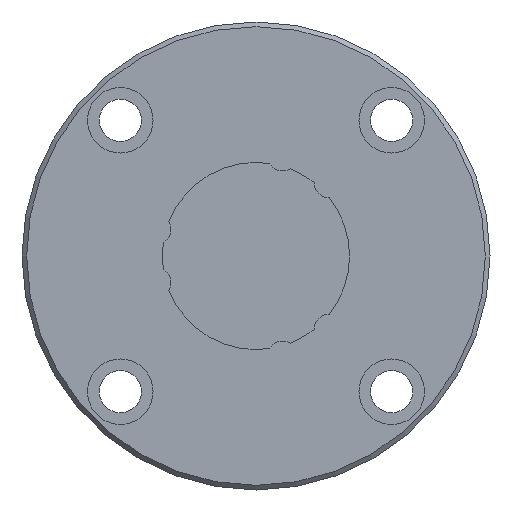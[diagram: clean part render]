
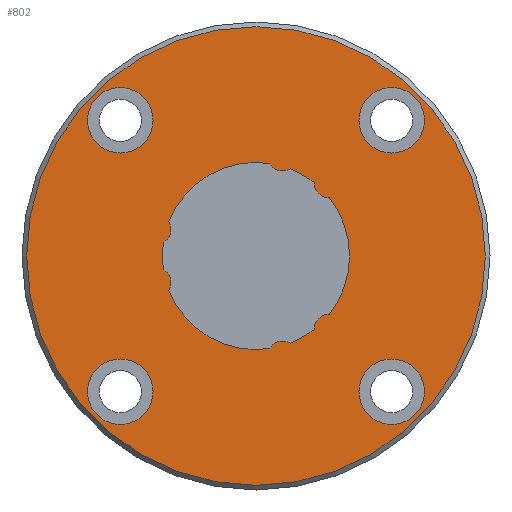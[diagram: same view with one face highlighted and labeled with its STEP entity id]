
A CAD part, left-side view. The second image highlights one B-rep face of the part: STEP entity #802.
In plain terms, the highlighted planar face has unit normal (-1, 0, 0).
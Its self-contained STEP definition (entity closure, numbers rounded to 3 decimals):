
#43=PLANE('',#905);
#174=ORIENTED_EDGE('',*,*,#346,.F.);
#175=ORIENTED_EDGE('',*,*,#347,.F.);
#176=ORIENTED_EDGE('',*,*,#348,.F.);
#177=ORIENTED_EDGE('',*,*,#349,.F.);
#178=ORIENTED_EDGE('',*,*,#350,.F.);
#179=ORIENTED_EDGE('',*,*,#351,.T.);
#180=ORIENTED_EDGE('',*,*,#352,.F.);
#181=ORIENTED_EDGE('',*,*,#353,.T.);
#182=ORIENTED_EDGE('',*,*,#354,.F.);
#183=ORIENTED_EDGE('',*,*,#355,.T.);
#184=ORIENTED_EDGE('',*,*,#356,.F.);
#185=ORIENTED_EDGE('',*,*,#357,.T.);
#186=ORIENTED_EDGE('',*,*,#358,.F.);
#187=ORIENTED_EDGE('',*,*,#359,.T.);
#188=ORIENTED_EDGE('',*,*,#360,.F.);
#189=ORIENTED_EDGE('',*,*,#361,.T.);
#190=ORIENTED_EDGE('',*,*,#362,.F.);
#346=EDGE_CURVE('',#438,#438,#514,.T.);
#347=EDGE_CURVE('',#439,#439,#515,.F.);
#348=EDGE_CURVE('',#440,#440,#516,.F.);
#349=EDGE_CURVE('',#441,#441,#517,.F.);
#350=EDGE_CURVE('',#442,#442,#518,.F.);
#351=EDGE_CURVE('',#443,#444,#519,.T.);
#352=EDGE_CURVE('',#445,#444,#520,.T.);
#353=EDGE_CURVE('',#445,#446,#521,.T.);
#354=EDGE_CURVE('',#447,#446,#522,.T.);
#355=EDGE_CURVE('',#447,#448,#523,.T.);
#356=EDGE_CURVE('',#449,#448,#524,.T.);
#357=EDGE_CURVE('',#449,#450,#525,.T.);
#358=EDGE_CURVE('',#451,#450,#526,.T.);
#359=EDGE_CURVE('',#451,#452,#527,.T.);
#360=EDGE_CURVE('',#453,#452,#528,.T.);
#361=EDGE_CURVE('',#453,#454,#529,.T.);
#362=EDGE_CURVE('',#443,#454,#530,.T.);
#438=VERTEX_POINT('',#1414);
#439=VERTEX_POINT('',#1416);
#440=VERTEX_POINT('',#1418);
#441=VERTEX_POINT('',#1420);
#442=VERTEX_POINT('',#1422);
#443=VERTEX_POINT('',#1424);
#444=VERTEX_POINT('',#1425);
#445=VERTEX_POINT('',#1427);
#446=VERTEX_POINT('',#1429);
#447=VERTEX_POINT('',#1431);
#448=VERTEX_POINT('',#1433);
#449=VERTEX_POINT('',#1435);
#450=VERTEX_POINT('',#1437);
#451=VERTEX_POINT('',#1439);
#452=VERTEX_POINT('',#1441);
#453=VERTEX_POINT('',#1443);
#454=VERTEX_POINT('',#1445);
#514=CIRCLE('',#906,49.);
#515=CIRCLE('',#907,7.);
#516=CIRCLE('',#908,7.);
#517=CIRCLE('',#909,7.);
#518=CIRCLE('',#910,7.);
#519=CIRCLE('',#911,20.);
#520=CIRCLE('',#912,3.175);
#521=CIRCLE('',#913,20.);
#522=CIRCLE('',#914,3.175);
#523=CIRCLE('',#915,20.);
#524=CIRCLE('',#916,3.175);
#525=CIRCLE('',#917,20.);
#526=CIRCLE('',#918,3.175);
#527=CIRCLE('',#919,20.);
#528=CIRCLE('',#920,3.175);
#529=CIRCLE('',#921,20.);
#530=CIRCLE('',#922,3.175);
#582=EDGE_LOOP('',(#174));
#583=EDGE_LOOP('',(#175));
#584=EDGE_LOOP('',(#176));
#585=EDGE_LOOP('',(#177));
#586=EDGE_LOOP('',(#178));
#587=EDGE_LOOP('',(#179,#180,#181,#182,#183,#184,#185,#186,#187,#188,#189,
#190));
#674=FACE_BOUND('',#582,.T.);
#675=FACE_BOUND('',#583,.T.);
#676=FACE_BOUND('',#584,.T.);
#677=FACE_BOUND('',#585,.T.);
#678=FACE_BOUND('',#586,.T.);
#679=FACE_BOUND('',#587,.T.);
#802=ADVANCED_FACE('',(#674,#675,#676,#677,#678,#679),#43,.F.);
#905=AXIS2_PLACEMENT_3D('',#1412,#1088,#1089);
#906=AXIS2_PLACEMENT_3D('',#1413,#1090,#1091);
#907=AXIS2_PLACEMENT_3D('',#1415,#1092,#1093);
#908=AXIS2_PLACEMENT_3D('',#1417,#1094,#1095);
#909=AXIS2_PLACEMENT_3D('',#1419,#1096,#1097);
#910=AXIS2_PLACEMENT_3D('',#1421,#1098,#1099);
#911=AXIS2_PLACEMENT_3D('',#1423,#1100,#1101);
#912=AXIS2_PLACEMENT_3D('',#1426,#1102,#1103);
#913=AXIS2_PLACEMENT_3D('',#1428,#1104,#1105);
#914=AXIS2_PLACEMENT_3D('',#1430,#1106,#1107);
#915=AXIS2_PLACEMENT_3D('',#1432,#1108,#1109);
#916=AXIS2_PLACEMENT_3D('',#1434,#1110,#1111);
#917=AXIS2_PLACEMENT_3D('',#1436,#1112,#1113);
#918=AXIS2_PLACEMENT_3D('',#1438,#1114,#1115);
#919=AXIS2_PLACEMENT_3D('',#1440,#1116,#1117);
#920=AXIS2_PLACEMENT_3D('',#1442,#1118,#1119);
#921=AXIS2_PLACEMENT_3D('',#1444,#1120,#1121);
#922=AXIS2_PLACEMENT_3D('',#1446,#1122,#1123);
#1088=DIRECTION('',(1.,0.,0.));
#1089=DIRECTION('',(0.,0.,-1.));
#1090=DIRECTION('',(1.,0.,0.));
#1091=DIRECTION('',(0.,0.,-1.));
#1092=DIRECTION('',(1.,0.,0.));
#1093=DIRECTION('',(0.,0.,-1.));
#1094=DIRECTION('',(1.,0.,0.));
#1095=DIRECTION('',(0.,0.,-1.));
#1096=DIRECTION('',(1.,0.,0.));
#1097=DIRECTION('',(0.,0.,-1.));
#1098=DIRECTION('',(1.,0.,0.));
#1099=DIRECTION('',(0.,0.,-1.));
#1100=DIRECTION('',(1.,0.,0.));
#1101=DIRECTION('',(0.,0.,-1.));
#1102=DIRECTION('',(1.,0.,0.));
#1103=DIRECTION('',(0.,0.,-1.));
#1104=DIRECTION('',(1.,0.,0.));
#1105=DIRECTION('',(0.,0.,-1.));
#1106=DIRECTION('',(1.,0.,0.));
#1107=DIRECTION('',(0.,0.,-1.));
#1108=DIRECTION('',(1.,0.,0.));
#1109=DIRECTION('',(0.,0.,-1.));
#1110=DIRECTION('',(1.,0.,0.));
#1111=DIRECTION('',(0.,0.,-1.));
#1112=DIRECTION('',(1.,0.,0.));
#1113=DIRECTION('',(0.,0.,-1.));
#1114=DIRECTION('',(1.,0.,0.));
#1115=DIRECTION('',(0.,0.,-1.));
#1116=DIRECTION('',(1.,0.,0.));
#1117=DIRECTION('',(0.,0.,-1.));
#1118=DIRECTION('',(1.,0.,0.));
#1119=DIRECTION('',(0.,0.,-1.));
#1120=DIRECTION('',(1.,0.,0.));
#1121=DIRECTION('',(0.,0.,-1.));
#1122=DIRECTION('',(1.,0.,0.));
#1123=DIRECTION('',(0.,0.,-1.));
#1412=CARTESIAN_POINT('',(0.,0.,0.));
#1413=CARTESIAN_POINT('',(0.,0.,0.));
#1414=CARTESIAN_POINT('',(0.,0.,-49.));
#1415=CARTESIAN_POINT('',(0.,-28.991,28.991));
#1416=CARTESIAN_POINT('',(0.,-28.991,21.991));
#1417=CARTESIAN_POINT('',(0.,-28.991,-28.991));
#1418=CARTESIAN_POINT('',(0.,-28.991,-35.991));
#1419=CARTESIAN_POINT('',(0.,28.991,-28.991));
#1420=CARTESIAN_POINT('',(0.,28.991,-35.991));
#1421=CARTESIAN_POINT('',(0.,28.991,28.991));
#1422=CARTESIAN_POINT('',(0.,28.991,21.991));
#1423=CARTESIAN_POINT('',(0.,0.,0.));
#1424=CARTESIAN_POINT('',(0.,19.78,-2.959));
#1425=CARTESIAN_POINT('',(0.,19.78,2.959));
#1426=CARTESIAN_POINT('',(0.,21.347,5.72));
#1427=CARTESIAN_POINT('',(0.,18.609,7.328));
#1428=CARTESIAN_POINT('',(0.,0.,0.));
#1429=CARTESIAN_POINT('',(0.,-2.959,19.78));
#1430=CARTESIAN_POINT('',(0.,-5.72,21.347));
#1431=CARTESIAN_POINT('',(0.,-7.328,18.609));
#1432=CARTESIAN_POINT('',(0.,0.,0.));
#1433=CARTESIAN_POINT('',(0.,-12.452,15.651));
#1434=CARTESIAN_POINT('',(0.,-15.627,15.627));
#1435=CARTESIAN_POINT('',(0.,-15.651,12.452));
#1436=CARTESIAN_POINT('',(0.,0.,0.));
#1437=CARTESIAN_POINT('',(0.,-15.651,-12.452));
#1438=CARTESIAN_POINT('',(0.,-15.627,-15.627));
#1439=CARTESIAN_POINT('',(0.,-12.452,-15.651));
#1440=CARTESIAN_POINT('',(0.,0.,0.));
#1441=CARTESIAN_POINT('',(0.,-7.328,-18.609));
#1442=CARTESIAN_POINT('',(0.,-5.72,-21.347));
#1443=CARTESIAN_POINT('',(0.,-2.959,-19.78));
#1444=CARTESIAN_POINT('',(0.,0.,0.));
#1445=CARTESIAN_POINT('',(0.,18.609,-7.328));
#1446=CARTESIAN_POINT('',(0.,21.347,-5.72));
